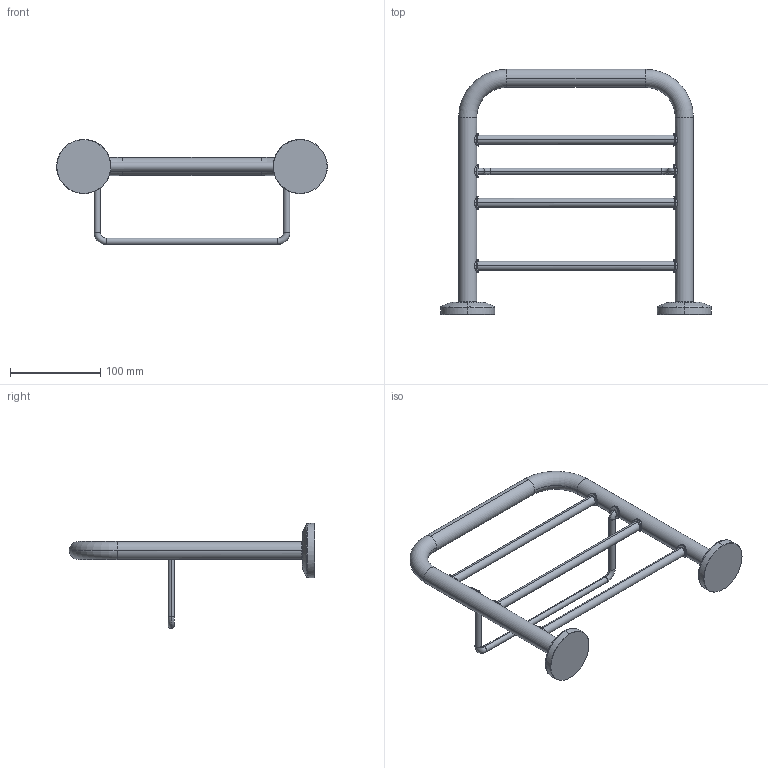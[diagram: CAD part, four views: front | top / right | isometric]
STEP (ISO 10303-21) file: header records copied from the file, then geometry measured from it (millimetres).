
FILE_DESCRIPTION(('THIS FILE CONTAINS SOME STEP INSTANCES'),'1');
FILE_NAME('sta_039.stp','2015-12-07T10:31:33',('UNDEFINED'),('UNDEFINED'),'T-FLEX CAD STEP converter','T-FLEX CAD','');
FILE_SCHEMA(('CONFIG_CONTROL_DESIGN'));
Length unit declared in the file: metre
Products named in the file (1): 3D 鐨飹懤艜_23
Bounding box: 300 x 272 x 116.5 mm (x, y, z)
Volume: 357042.1 mm3; surface area: 87115.9 mm2
Topology: 1 solids, 1 shells, 158 faces, 416 edges, 254 vertices
Faces by surface type: bspline 66, cylinder 56, torus 20, cone 12, plane 4
Entity records: 21418 total; most frequent: CARTESIAN_POINT 18529, ORIENTED_EDGE 832, EDGE_CURVE 416, B_SPLINE_CURVE_WITH_KNOTS 260, DIRECTION 254, VERTEX_POINT 254, EDGE_LOOP 160, ADVANCED_FACE 158
